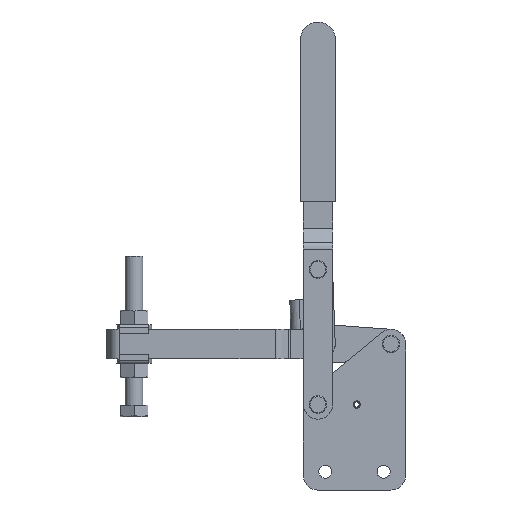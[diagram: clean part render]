
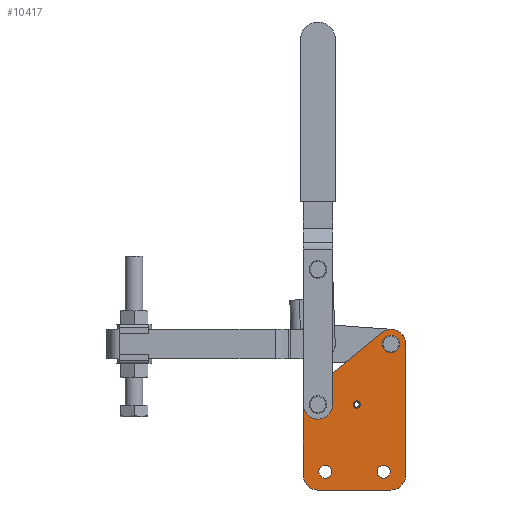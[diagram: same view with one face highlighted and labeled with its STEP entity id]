
A CAD part, front view. The second image highlights one B-rep face of the part: STEP entity #10417.
In plain terms, the highlighted planar face has unit normal (0, -1, 0).
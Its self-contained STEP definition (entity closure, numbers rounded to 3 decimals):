
#10256=CARTESIAN_POINT('Axis2P3D Location',(0.,12.5,0.)) ;
#10261=CARTESIAN_POINT('Line Origine',(-15.,12.5,4.252)) ;
#10265=CARTESIAN_POINT('Cartesian Point',(-15.,12.5,-20.)) ;
#10267=CARTESIAN_POINT('Cartesian Point',(-15.,12.5,28.504)) ;
#10270=CARTESIAN_POINT('Axis2P3D Location',(-5.,12.5,-20.)) ;
#10274=CARTESIAN_POINT('Cartesian Point',(-5.,12.5,-30.)) ;
#10277=CARTESIAN_POINT('Line Origine',(20.,12.5,-30.)) ;
#10281=CARTESIAN_POINT('Cartesian Point',(45.,12.5,-30.)) ;
#10284=CARTESIAN_POINT('Axis2P3D Location',(45.,12.5,-20.)) ;
#10288=CARTESIAN_POINT('Cartesian Point',(55.,12.5,-20.)) ;
#10291=CARTESIAN_POINT('Line Origine',(55.,12.5,25.)) ;
#10295=CARTESIAN_POINT('Cartesian Point',(55.,12.5,70.)) ;
#10298=CARTESIAN_POINT('Axis2P3D Location',(45.,12.5,70.)) ;
#10302=CARTESIAN_POINT('Cartesian Point',(38.614,12.5,77.695)) ;
#10305=CARTESIAN_POINT('Line Origine',(13.614,12.5,56.947)) ;
#10309=CARTESIAN_POINT('Cartesian Point',(-11.386,12.5,36.199)) ;
#10312=CARTESIAN_POINT('Axis2P3D Location',(-5.,12.5,28.504)) ;
#10327=CARTESIAN_POINT('Axis2P3D Location',(-5.,12.5,28.5)) ;
#10331=CARTESIAN_POINT('Cartesian Point',(0.,12.5,28.5)) ;
#10333=CARTESIAN_POINT('Cartesian Point',(-10.,12.5,28.5)) ;
#10336=CARTESIAN_POINT('Axis2P3D Location',(-5.,12.5,28.5)) ;
#10345=CARTESIAN_POINT('Axis2P3D Location',(45.,12.5,70.)) ;
#10349=CARTESIAN_POINT('Cartesian Point',(49.,12.5,70.)) ;
#10351=CARTESIAN_POINT('Cartesian Point',(41.,12.5,70.)) ;
#10354=CARTESIAN_POINT('Axis2P3D Location',(45.,12.5,70.)) ;
#10363=CARTESIAN_POINT('Axis2P3D Location',(21.5,12.5,28.5)) ;
#10367=CARTESIAN_POINT('Cartesian Point',(24.,12.5,28.5)) ;
#10369=CARTESIAN_POINT('Cartesian Point',(19.,12.5,28.5)) ;
#10372=CARTESIAN_POINT('Axis2P3D Location',(21.5,12.5,28.5)) ;
#10381=CARTESIAN_POINT('Axis2P3D Location',(40.,12.5,-17.5)) ;
#10385=CARTESIAN_POINT('Cartesian Point',(44.5,12.5,-17.5)) ;
#10387=CARTESIAN_POINT('Cartesian Point',(35.5,12.5,-17.5)) ;
#10390=CARTESIAN_POINT('Axis2P3D Location',(40.,12.5,-17.5)) ;
#10399=CARTESIAN_POINT('Axis2P3D Location',(0.,12.5,-17.5)) ;
#10403=CARTESIAN_POINT('Cartesian Point',(4.5,12.5,-17.5)) ;
#10405=CARTESIAN_POINT('Cartesian Point',(-4.5,12.5,-17.5)) ;
#10408=CARTESIAN_POINT('Axis2P3D Location',(0.,12.5,-17.5)) ;
#10257=DIRECTION('Axis2P3D Direction',(0.,1.,0.)) ;
#10258=DIRECTION('Axis2P3D XDirection',(1.,0.,0.)) ;
#10262=DIRECTION('Vector Direction',(0.,0.,1.)) ;
#10271=DIRECTION('Axis2P3D Direction',(0.,1.,0.)) ;
#10278=DIRECTION('Vector Direction',(1.,0.,0.)) ;
#10285=DIRECTION('Axis2P3D Direction',(0.,1.,0.)) ;
#10292=DIRECTION('Vector Direction',(0.,0.,1.)) ;
#10299=DIRECTION('Axis2P3D Direction',(0.,1.,0.)) ;
#10306=DIRECTION('Vector Direction',(-0.77,0.,-0.639)) ;
#10313=DIRECTION('Axis2P3D Direction',(0.,1.,0.)) ;
#10328=DIRECTION('Axis2P3D Direction',(0.,1.,0.)) ;
#10337=DIRECTION('Axis2P3D Direction',(0.,1.,0.)) ;
#10346=DIRECTION('Axis2P3D Direction',(0.,1.,0.)) ;
#10355=DIRECTION('Axis2P3D Direction',(0.,1.,0.)) ;
#10364=DIRECTION('Axis2P3D Direction',(0.,1.,0.)) ;
#10373=DIRECTION('Axis2P3D Direction',(0.,1.,0.)) ;
#10382=DIRECTION('Axis2P3D Direction',(0.,1.,0.)) ;
#10391=DIRECTION('Axis2P3D Direction',(0.,1.,0.)) ;
#10400=DIRECTION('Axis2P3D Direction',(0.,1.,0.)) ;
#10409=DIRECTION('Axis2P3D Direction',(0.,1.,0.)) ;
#10259=AXIS2_PLACEMENT_3D('Plane Axis2P3D',#10256,#10257,#10258) ;
#10272=AXIS2_PLACEMENT_3D('Circle Axis2P3D',#10270,#10271,$) ;
#10286=AXIS2_PLACEMENT_3D('Circle Axis2P3D',#10284,#10285,$) ;
#10300=AXIS2_PLACEMENT_3D('Circle Axis2P3D',#10298,#10299,$) ;
#10314=AXIS2_PLACEMENT_3D('Circle Axis2P3D',#10312,#10313,$) ;
#10329=AXIS2_PLACEMENT_3D('Circle Axis2P3D',#10327,#10328,$) ;
#10338=AXIS2_PLACEMENT_3D('Circle Axis2P3D',#10336,#10337,$) ;
#10347=AXIS2_PLACEMENT_3D('Circle Axis2P3D',#10345,#10346,$) ;
#10356=AXIS2_PLACEMENT_3D('Circle Axis2P3D',#10354,#10355,$) ;
#10365=AXIS2_PLACEMENT_3D('Circle Axis2P3D',#10363,#10364,$) ;
#10374=AXIS2_PLACEMENT_3D('Circle Axis2P3D',#10372,#10373,$) ;
#10383=AXIS2_PLACEMENT_3D('Circle Axis2P3D',#10381,#10382,$) ;
#10392=AXIS2_PLACEMENT_3D('Circle Axis2P3D',#10390,#10391,$) ;
#10401=AXIS2_PLACEMENT_3D('Circle Axis2P3D',#10399,#10400,$) ;
#10410=AXIS2_PLACEMENT_3D('Circle Axis2P3D',#10408,#10409,$) ;
#10318=ORIENTED_EDGE('Oriented Edge',*,*,#10269,.F.) ;
#10319=ORIENTED_EDGE('Oriented Edge',*,*,#10276,.T.) ;
#10320=ORIENTED_EDGE('Oriented Edge',*,*,#10283,.T.) ;
#10321=ORIENTED_EDGE('Oriented Edge',*,*,#10290,.T.) ;
#10322=ORIENTED_EDGE('Oriented Edge',*,*,#10297,.T.) ;
#10323=ORIENTED_EDGE('Oriented Edge',*,*,#10304,.T.) ;
#10324=ORIENTED_EDGE('Oriented Edge',*,*,#10311,.T.) ;
#10325=ORIENTED_EDGE('Oriented Edge',*,*,#10316,.T.) ;
#10342=ORIENTED_EDGE('Oriented Edge',*,*,#10335,.F.) ;
#10343=ORIENTED_EDGE('Oriented Edge',*,*,#10340,.F.) ;
#10360=ORIENTED_EDGE('Oriented Edge',*,*,#10353,.F.) ;
#10361=ORIENTED_EDGE('Oriented Edge',*,*,#10358,.F.) ;
#10378=ORIENTED_EDGE('Oriented Edge',*,*,#10371,.F.) ;
#10379=ORIENTED_EDGE('Oriented Edge',*,*,#10376,.F.) ;
#10396=ORIENTED_EDGE('Oriented Edge',*,*,#10389,.F.) ;
#10397=ORIENTED_EDGE('Oriented Edge',*,*,#10394,.F.) ;
#10414=ORIENTED_EDGE('Oriented Edge',*,*,#10407,.F.) ;
#10415=ORIENTED_EDGE('Oriented Edge',*,*,#10412,.F.) ;
#10344=FACE_BOUND('Face Bound',#10341,.T.) ;
#10362=FACE_BOUND('Face Bound',#10359,.T.) ;
#10380=FACE_BOUND('Face Bound',#10377,.T.) ;
#10398=FACE_BOUND('Face Bound',#10395,.T.) ;
#10416=FACE_BOUND('Face Bound',#10413,.T.) ;
#10263=VECTOR('Line Direction',#10262,1.) ;
#10279=VECTOR('Line Direction',#10278,1.) ;
#10293=VECTOR('Line Direction',#10292,1.) ;
#10307=VECTOR('Line Direction',#10306,1.) ;
#10417=ADVANCED_FACE('',(#10326,#10344,#10362,#10380,#10398,#10416),#10260,.F.) ;
#10273=CIRCLE('generated circle',#10272,10.) ;
#10287=CIRCLE('generated circle',#10286,10.) ;
#10301=CIRCLE('generated circle',#10300,10.) ;
#10315=CIRCLE('generated circle',#10314,10.) ;
#10330=CIRCLE('generated circle',#10329,5.) ;
#10339=CIRCLE('generated circle',#10338,5.) ;
#10348=CIRCLE('generated circle',#10347,4.) ;
#10357=CIRCLE('generated circle',#10356,4.) ;
#10366=CIRCLE('generated circle',#10365,2.5) ;
#10375=CIRCLE('generated circle',#10374,2.5) ;
#10384=CIRCLE('generated circle',#10383,4.5) ;
#10393=CIRCLE('generated circle',#10392,4.5) ;
#10402=CIRCLE('generated circle',#10401,4.5) ;
#10411=CIRCLE('generated circle',#10410,4.5) ;
#10269=EDGE_CURVE('',#10266,#10268,#10264,.T.) ;
#10276=EDGE_CURVE('',#10266,#10275,#10273,.F.) ;
#10283=EDGE_CURVE('',#10275,#10282,#10280,.T.) ;
#10290=EDGE_CURVE('',#10282,#10289,#10287,.F.) ;
#10297=EDGE_CURVE('',#10289,#10296,#10294,.T.) ;
#10304=EDGE_CURVE('',#10296,#10303,#10301,.F.) ;
#10311=EDGE_CURVE('',#10303,#10310,#10308,.T.) ;
#10316=EDGE_CURVE('',#10310,#10268,#10315,.F.) ;
#10335=EDGE_CURVE('',#10332,#10334,#10330,.F.) ;
#10340=EDGE_CURVE('',#10334,#10332,#10339,.F.) ;
#10353=EDGE_CURVE('',#10350,#10352,#10348,.F.) ;
#10358=EDGE_CURVE('',#10352,#10350,#10357,.F.) ;
#10371=EDGE_CURVE('',#10368,#10370,#10366,.F.) ;
#10376=EDGE_CURVE('',#10370,#10368,#10375,.F.) ;
#10389=EDGE_CURVE('',#10386,#10388,#10384,.F.) ;
#10394=EDGE_CURVE('',#10388,#10386,#10393,.F.) ;
#10407=EDGE_CURVE('',#10404,#10406,#10402,.F.) ;
#10412=EDGE_CURVE('',#10406,#10404,#10411,.F.) ;
#10317=EDGE_LOOP('Oriented Loop',(#10318,#10319,#10320,#10321,#10322,#10323,#10324,#10325)) ;
#10341=EDGE_LOOP('Oriented Loop',(#10342,#10343)) ;
#10359=EDGE_LOOP('Oriented Loop',(#10360,#10361)) ;
#10377=EDGE_LOOP('Oriented Loop',(#10378,#10379)) ;
#10395=EDGE_LOOP('Oriented Loop',(#10396,#10397)) ;
#10413=EDGE_LOOP('Oriented Loop',(#10414,#10415)) ;
#10326=FACE_OUTER_BOUND('Face Bound',#10317,.T.) ;
#10264=LINE('Line',#10261,#10263) ;
#10280=LINE('Line',#10277,#10279) ;
#10294=LINE('Line',#10291,#10293) ;
#10308=LINE('Line',#10305,#10307) ;
#10260=PLANE('Plane',#10259) ;
#10266=VERTEX_POINT('Vertex Point',#10265) ;
#10268=VERTEX_POINT('Vertex Point',#10267) ;
#10275=VERTEX_POINT('Vertex Point',#10274) ;
#10282=VERTEX_POINT('Vertex Point',#10281) ;
#10289=VERTEX_POINT('Vertex Point',#10288) ;
#10296=VERTEX_POINT('Vertex Point',#10295) ;
#10303=VERTEX_POINT('Vertex Point',#10302) ;
#10310=VERTEX_POINT('Vertex Point',#10309) ;
#10332=VERTEX_POINT('Vertex Point',#10331) ;
#10334=VERTEX_POINT('Vertex Point',#10333) ;
#10350=VERTEX_POINT('Vertex Point',#10349) ;
#10352=VERTEX_POINT('Vertex Point',#10351) ;
#10368=VERTEX_POINT('Vertex Point',#10367) ;
#10370=VERTEX_POINT('Vertex Point',#10369) ;
#10386=VERTEX_POINT('Vertex Point',#10385) ;
#10388=VERTEX_POINT('Vertex Point',#10387) ;
#10404=VERTEX_POINT('Vertex Point',#10403) ;
#10406=VERTEX_POINT('Vertex Point',#10405) ;
